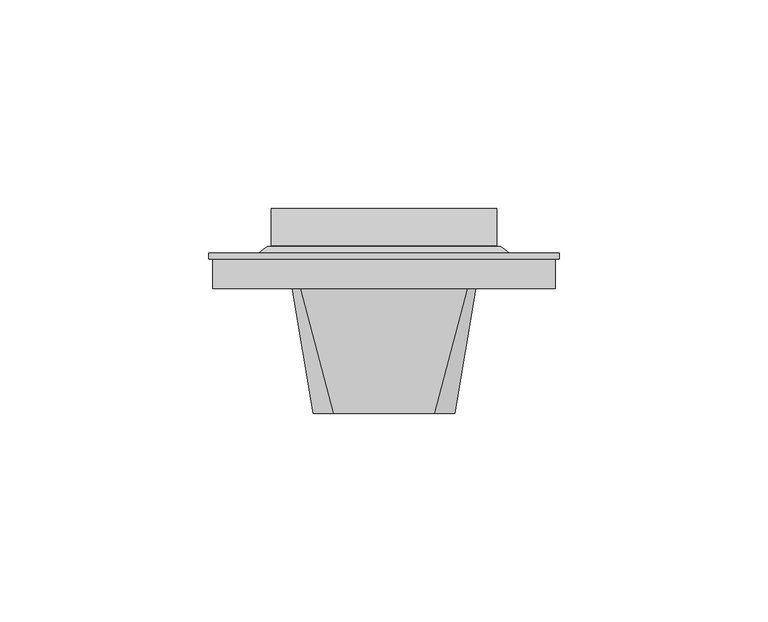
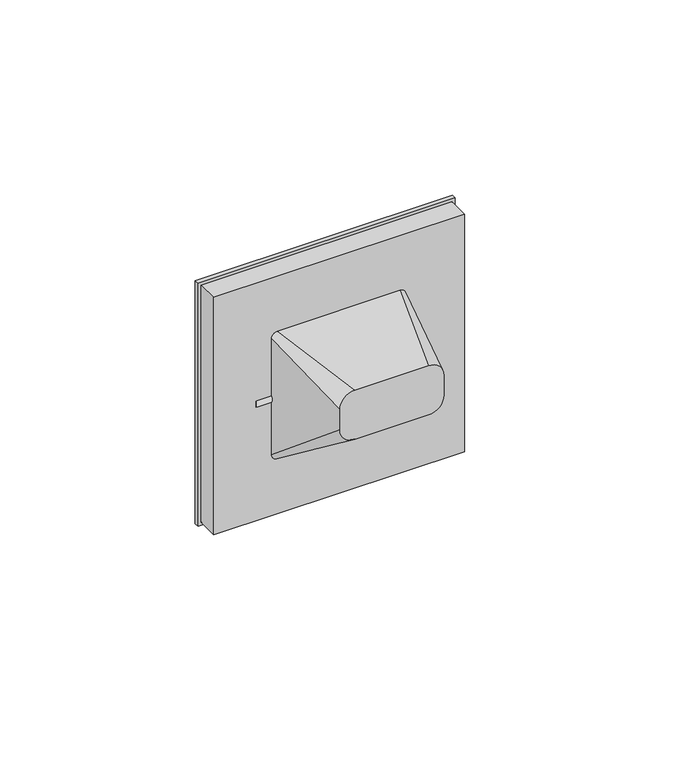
"""IFC4 building model written with IfcOpenShell, lengths in millimetres: proxy geometry, IEK_Brite_Выключатель : В1_ВСР10-1-0-БрА."""

from ifc_helpers import new_model, si_unit, point, frame, frame_2d, origin, place, context, project, spatial, polyline, circle_curve, trimmed, segment, composite_curve, outline, extrude, faceted_brep, source, transform, mapped, element, save
from ifc_brep_helpers import plane_surface, spline_surface, advanced_brep


def electrical_fixtures_46f6e991(model_context):
    return source(origin(), model_context, "Body", "SolidModel", [
        extrude(outline(composite_curve([segment(polyline([(19.1247035, -24.1237652), (11.4236286, -26.3320129), (7.3756597, -3.3748404), (1.5972872, -2.8692983)]), True, "CONTINUOUS"), segment(trimmed(circle_curve(frame_2d((1.7530049, -1.0894363)), 1.7866608), [point((1.5972872, -2.8692983))], [point((0.9979294, 0.5298284))], False, "CARTESIAN"), True, "CONTINUOUS"), segment(polyline([(0.9979294, 0.5298284), (6.2549179, 2.9812023), (2.206949, 25.9383748), (10.1988574, 26.4972235), (19.1247035, -24.1237652)]), True, "CONTINUOUS")], self_intersect=False)), frame((-27.0, 0.0, 0.0), z_axis=(1.0, 0.0, 0.0), x_axis=(0.0, 1.0, 0.0)), (0.0, 0.0, 1.0), 54.0),
        advanced_brep(
        [(-42.0, 7.0, 42.0), (-42.0, 7.0, -42.0), (42.0, 7.0, -42.0), (42.0, 7.0, 42.0), (-41.0, 7.0, -41.0), (-41.0, 7.0, 41.0), (41.0, 7.0, 41.0), (41.0, 7.0, -41.0), (-42.0, 8.5, 42.0), (42.0, 8.5, 42.0), (42.0, 8.5, -42.0), (-42.0, 8.5, -42.0), (-27.5, 8.5, -27.5), (27.5, 8.5, -27.5), (27.5, 8.5, 27.5), (-27.5, 8.5, 27.5), (-27.5, 2.206949, -27.5), (-27.5, 2.206949, 27.5), (27.5, 2.206949, 27.5), (27.5, 2.206949, -27.5), (-41.0, 0.0, 41.0), (-41.0, 0.0, -41.0), (41.0, 0.0, -41.0), (41.0, 0.0, 41.0), (-20.0, 0.0, 22.0), (20.0, 0.0, 22.0), (22.0, 0.0, 20.0), (22.0, 0.0, -20.0), (20.0, 0.0, -22.0), (-20.0, 0.0, -22.0), (-22.0, 0.0, -20.0), (-22.0, 0.0, 20.0), (-12.0, -30.0, 17.0), (-17.0, -30.0, 12.0), (-17.0, -30.0, 5.0), (-12.0, -30.0, 0.0), (12.0, -30.0, 0.0), (17.0, -30.0, 5.0), (17.0, -30.0, 12.0), (12.0, -30.0, 17.0)],
        [
            (0, 1),
            (1, 2),
            (2, 3),
            (3, 0),
            (4, 5),
            (5, 6),
            (6, 7),
            (7, 4),
            (8, 9),
            (9, 10),
            (10, 11),
            (11, 8),
            (12, 13),
            (13, 14),
            (14, 15),
            (15, 12),
            (3, 9),
            (8, 0),
            (2, 10),
            (1, 11),
            (16, 17),
            (17, 18),
            (18, 19),
            (19, 16),
            (19, 13),
            (12, 16),
            (18, 14),
            (17, 15),
            (20, 21),
            (21, 22),
            (22, 23),
            (23, 20),
            (24, 25),
            (25, 26, circle_curve(frame((20.0, 0.0, 20.0), z_axis=(0.0, 1.0, 0.0), x_axis=(1.0, 0.0, 0.0)), 2.0)),
            (26, 27),
            (27, 28, circle_curve(frame((20.0, 0.0, -20.0), z_axis=(0.0, 1.0, 0.0), x_axis=(1.0, 0.0, 0.0)), 2.0)),
            (28, 29),
            (29, 30, circle_curve(frame((-20.0, 0.0, -20.0), z_axis=(0.0, 1.0, 0.0), x_axis=(1.0, 0.0, 0.0)), 2.0)),
            (30, 31),
            (31, 24, circle_curve(frame((-20.0, 0.0, 20.0), z_axis=(0.0, 1.0, 0.0), x_axis=(1.0, 0.0, 0.0)), 2.0)),
            (20, 5),
            (4, 21),
            (7, 22),
            (6, 23),
            (32, 33, circle_curve(frame((-12.0, -30.0, 12.0), z_axis=(0.0, -1.0, 0.0), x_axis=(1.0, 0.0, 0.0)), 5.0)),
            (33, 34),
            (34, 35, circle_curve(frame((-12.0, -30.0, 5.0), z_axis=(0.0, -1.0, 0.0), x_axis=(1.0, 0.0, 0.0)), 5.0)),
            (35, 36),
            (36, 37, circle_curve(frame((12.0, -30.0, 5.0), z_axis=(0.0, -1.0, 0.0), x_axis=(1.0, 0.0, 0.0)), 5.0)),
            (37, 38),
            (38, 39, circle_curve(frame((12.0, -30.0, 12.0), z_axis=(0.0, -1.0, 0.0), x_axis=(1.0, 0.0, 0.0)), 5.0)),
            (39, 32),
            (39, 25),
            (24, 32),
            (38, 26),
            (37, 27),
            (36, 28),
            (35, 29),
            (34, 30),
            (33, 31),
        ],
        [
            plane_surface(frame((42.0, 7.0, 42.0), z_axis=(0.0, -1.0, 0.0), x_axis=(-1.0, 0.0, 0.0))),
            plane_surface(frame((42.0, 8.5, 42.0), z_axis=(0.0, 1.0, 0.0), x_axis=(1.0, 0.0, 0.0))),
            plane_surface(frame((-42.0, 8.5, 42.0), z_axis=(0.0, 0.0, 1.0), x_axis=(0.0, -1.0, 0.0))),
            plane_surface(frame((42.0, 8.5, 42.0), z_axis=(1.0, 0.0, 0.0), x_axis=(0.0, -1.0, 0.0))),
            plane_surface(frame((42.0, 8.5, -42.0), z_axis=(0.0, 0.0, -1.0), x_axis=(0.0, -1.0, 0.0))),
            plane_surface(frame((-42.0, 8.5, -42.0), z_axis=(-1.0, 0.0, 0.0), x_axis=(0.0, -1.0, 0.0))),
            plane_surface(frame((27.5, 2.206949, -27.5), z_axis=(0.0, 1.0, 0.0), x_axis=(1.0, 0.0, 0.0))),
            plane_surface(frame((-27.5, 2.206949, -27.5), z_axis=(0.0, 0.0, 1.0), x_axis=(0.0, 1.0, 0.0))),
            plane_surface(frame((27.5, 2.206949, -27.5), z_axis=(-1.0, 0.0, 0.0), x_axis=(0.0, 1.0, 0.0))),
            plane_surface(frame((27.5, 2.206949, 27.5), z_axis=(0.0, 0.0, -1.0), x_axis=(0.0, 1.0, 0.0))),
            plane_surface(frame((-27.5, 2.206949, 27.5), z_axis=(1.0, 0.0, 0.0), x_axis=(0.0, 1.0, 0.0))),
            plane_surface(frame((-41.0, 0.0, 41.0), z_axis=(0.0, -1.0, 0.0), x_axis=(0.0, 0.0, -1.0))),
            plane_surface(frame((-41.0, 0.0, 41.0), z_axis=(-1.0, 0.0, 0.0), x_axis=(0.0, 1.0, 0.0))),
            plane_surface(frame((-41.0, 0.0, -41.0), z_axis=(0.0, 0.0, -1.0), x_axis=(0.0, 1.0, 0.0))),
            plane_surface(frame((41.0, 0.0, -41.0), z_axis=(1.0, 0.0, 0.0), x_axis=(0.0, 1.0, 0.0))),
            plane_surface(frame((41.0, 0.0, 41.0), z_axis=(0.0, 0.0, 1.0), x_axis=(0.0, 1.0, 0.0))),
            plane_surface(frame((0.0, -30.0, 8.5), z_axis=(0.0, -1.0, 0.0), x_axis=(-1.0, 0.0, 0.0))),
            plane_surface(frame((0.0, 0.0, 22.0), z_axis=(0.0, -0.16439898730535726, 0.9863939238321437), x_axis=(-1.0, 0.0, 0.0))),
            spline_surface(2, 1, [[(22.0, 0.0, 20.0), (17.0, -30.0, 12.0)], [(22.0, 0.0, 22.0), (17.0, -30.0, 17.0)], [(20.0, 0.0, 22.0), (12.0, -30.0, 17.0)]], [3, 3], [2, 2], [0.0, 1.0], [0.0, 1.0], weights=[[1.0, 1.0], [0.7071067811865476, 0.7071067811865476], [1.0, 1.0]]),
            plane_surface(frame((22.0, 0.0, 0.0), z_axis=(0.9863939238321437, -0.1643989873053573, 0.0), x_axis=(0.0, 0.0, 1.0))),
            spline_surface(2, 1, [[(20.0, 0.0, -22.0), (12.0, -30.0, 0.0)], [(22.0, 0.0, -22.0), (17.0, -30.0, 0.0)], [(22.0, 0.0, -20.0), (17.0, -30.0, 5.0)]], [3, 3], [2, 2], [0.0, 1.0], [0.0, 1.0], weights=[[1.0, 1.0], [0.7071067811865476, 0.7071067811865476], [1.0, 1.0]]),
            plane_surface(frame((0.0, 0.0, -22.0), z_axis=(0.0, -0.591363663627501, -0.8064049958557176), x_axis=(1.0, 0.0, 0.0))),
            spline_surface(2, 1, [[(-22.0, 0.0, -20.0), (-17.0, -30.0, 5.0)], [(-22.0, 0.0, -22.0), (-17.0, -30.0, 0.0)], [(-20.0, 0.0, -22.0), (-12.0, -30.0, 0.0)]], [3, 3], [2, 2], [0.0, 1.0], [0.0, 1.0], weights=[[1.0, 1.0], [0.7071067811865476, 0.7071067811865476], [1.0, 1.0]]),
            plane_surface(frame((-22.0, 0.0, 0.0), z_axis=(-0.9863939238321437, -0.1643989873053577, 0.0), x_axis=(0.0, 0.0, -1.0))),
            spline_surface(2, 1, [[(-20.0, 0.0, 22.0), (-12.0, -30.0, 17.0)], [(-22.0, 0.0, 22.0), (-17.0, -30.0, 17.0)], [(-22.0, 0.0, 20.0), (-17.0, -30.0, 12.0)]], [3, 3], [2, 2], [0.0, 1.0], [0.0, 1.0], weights=[[1.0, 1.0], [0.7071067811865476, 0.7071067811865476], [1.0, 1.0]]),
        ],
        [
            (0, [[1, 2, 3, 4], [5, 6, 7, 8]]),
            (1, [[9, 10, 11, 12], [13, 14, 15, 16]]),
            (2, [[-4, 17, -9, 18]]),
            (3, [[-3, 19, -10, -17]]),
            (4, [[-2, 20, -11, -19]]),
            (5, [[-1, -18, -12, -20]]),
            (6, [[21, 22, 23, 24]]),
            (7, [[-24, 25, -13, 26]]),
            (8, [[-23, 27, -14, -25]]),
            (9, [[-22, 28, -15, -27]]),
            (10, [[-21, -26, -16, -28]]),
            (11, [[29, 30, 31, 32], [33, 34, 35, 36, 37, 38, 39, 40]]),
            (12, [[-29, 41, -5, 42]]),
            (13, [[-30, -42, -8, 43]]),
            (14, [[-31, -43, -7, 44]]),
            (15, [[-32, -44, -6, -41]]),
            (16, [[45, 46, 47, 48, 49, 50, 51, 52]]),
            (17, [[-52, 53, -33, 54]]),
            (18, [[-51, 55, -34, -53]]),
            (19, [[-50, 56, -35, -55]]),
            (20, [[-49, 57, -36, -56]]),
            (21, [[-48, 58, -37, -57]]),
            (22, [[-47, 59, -38, -58]]),
            (23, [[-46, 60, -39, -59]]),
            (24, [[-45, -54, -40, -60]]),
        ],
    ),
        faceted_brep([(-30.0, 8.5, 30.0), (-30.0, 8.5, -30.0), (30.0, 8.5, -30.0), (30.0, 8.5, 30.0), (27.5, 8.5, -27.5), (-27.5, 8.5, -27.5), (-27.5, 8.5, 27.5), (27.5, 8.5, 27.5), (-28.0, 10.0, 28.0), (28.0, 10.0, 28.0), (28.0, 10.0, -28.0), (-28.0, 10.0, -28.0), (-27.5, 10.0, -27.5), (27.5, 10.0, -27.5), (27.5, 10.0, 27.5), (-27.5, 10.0, 27.5)], [[[0, 1, 2, 3], [4, 5, 6, 7]], [[8, 9, 10, 11], [12, 13, 14, 15]], [[1, 0, 8, 11]], [[2, 1, 11, 10]], [[3, 2, 10, 9]], [[0, 3, 9, 8]], [[12, 5, 4, 13]], [[13, 4, 7, 14]], [[14, 7, 6, 15]], [[5, 12, 15, 6]]]),
    ])


if __name__ == "__main__":
    model = new_model("IFC4")
    model_context = context("Model", 3, world=origin())
    ifc_project = project(units=[si_unit("LENGTHUNIT", "METRE", prefix="MILLI")], contexts=[model_context])
    site = spatial("IfcSite", under=ifc_project)
    building = spatial("IfcBuilding", under=site)
    placement = place(None, origin())
    electrical_fixtures_shape = electrical_fixtures_46f6e991(model_context)
    element("IfcBuildingElementProxy", 1, Name="IEK_Brite_Выключатель : В1_ВСР10-1-0-БрА", ObjectType="IEK_Brite_Выключатель : В1_ВСР10-1-0-БрА", at=placement, inside=building, context=model_context, shape_type="MappedRepresentation", body=[
        mapped(electrical_fixtures_shape, transform((0.0, 0.0, 0.0), x_axis=(1.0, 0.0, 0.0), y_axis=(0.0, 1.0, 0.0), z_axis=(0.0, 0.0, 1.0))),
    ])
    save(model, "model.ifc")
